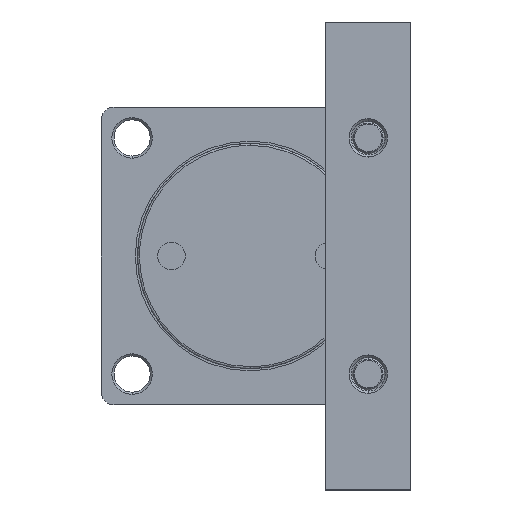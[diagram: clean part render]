
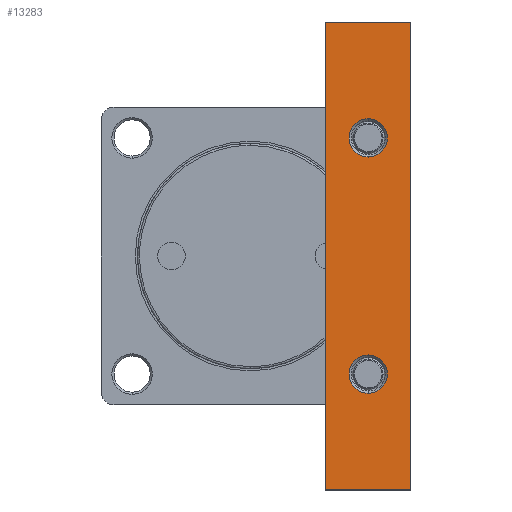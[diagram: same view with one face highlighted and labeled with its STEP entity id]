
A CAD part, left-side view. The second image highlights one B-rep face of the part: STEP entity #13283.
In plain terms, the highlighted planar face has unit normal (1, 0, 0).
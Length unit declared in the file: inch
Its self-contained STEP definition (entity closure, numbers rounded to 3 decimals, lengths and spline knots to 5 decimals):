
#278 = FACE_OUTER_BOUND ( 'NONE', #11559, .T. ) ;
#330 = FACE_BOUND ( 'NONE', #11462, .T. ) ;
#429 = FACE_BOUND ( 'NONE', #10726, .T. ) ;
#587 = EDGE_CURVE ( 'NONE', #9661, #13272, #10813, .T. ) ;
#703 = DIRECTION ( 'NONE',  ( 0., -1., 0. ) ) ;
#925 = CIRCLE ( 'NONE', #10037, 0.35433 ) ;
#1519 = VERTEX_POINT ( 'NONE', #6085 ) ;
#1577 = VECTOR ( 'NONE', #3057, 39.37008 ) ;
#1736 = LINE ( 'NONE', #10675, #9034 ) ;
#1895 = LINE ( 'NONE', #10315, #12450 ) ;
#2360 = ORIENTED_EDGE ( 'NONE', *, *, #6952, .T. ) ;
#2753 = AXIS2_PLACEMENT_3D ( 'NONE', #9407, #7919, #14099 ) ;
#2815 = AXIS2_PLACEMENT_3D ( 'NONE', #3632, #3628, #3608 ) ;
#2924 = VERTEX_POINT ( 'NONE', #12905 ) ;
#3031 = CARTESIAN_POINT ( 'NONE',  ( -2.61811, -1.39764, 4.33071 ) ) ;
#3057 = DIRECTION ( 'NONE',  ( 0., 0., 1. ) ) ;
#3608 = DIRECTION ( 'NONE',  ( 0., 0., 1. ) ) ;
#3628 = DIRECTION ( 'NONE',  ( -1., 0., 0. ) ) ;
#3632 = CARTESIAN_POINT ( 'NONE',  ( -2.61811, -2.18504, 2.18504 ) ) ;
#4133 = EDGE_CURVE ( 'NONE', #1519, #2924, #8435, .T. ) ;
#4329 = EDGE_CURVE ( 'NONE', #9180, #9606, #9772, .T. ) ;
#4733 = CIRCLE ( 'NONE', #7705, 0.35433 ) ;
#4850 = EDGE_CURVE ( 'NONE', #9606, #12895, #9129, .T. ) ;
#5088 = EDGE_CURVE ( 'NONE', #12895, #13873, #1736, .T. ) ;
#5189 = EDGE_CURVE ( 'NONE', #13873, #9180, #1895, .T. ) ;
#5261 = CARTESIAN_POINT ( 'NONE',  ( -2.61811, -2.18504, -2.53937 ) ) ;
#6085 = CARTESIAN_POINT ( 'NONE',  ( -2.61811, -2.18504, 2.53937 ) ) ;
#6952 = EDGE_CURVE ( 'NONE', #2924, #1519, #925, .T. ) ;
#7045 = VECTOR ( 'NONE', #703, 39.37008 ) ;
#7282 = ORIENTED_EDGE ( 'NONE', *, *, #4133, .T. ) ;
#7350 = CARTESIAN_POINT ( 'NONE',  ( -2.61811, -2.97244, 4.33071 ) ) ;
#7705 = AXIS2_PLACEMENT_3D ( 'NONE', #12295, #12279, #12234 ) ;
#7720 = DIRECTION ( 'NONE',  ( 0., 0., 1. ) ) ;
#7734 = DIRECTION ( 'NONE',  ( -1., 0., 0. ) ) ;
#7736 = CARTESIAN_POINT ( 'NONE',  ( -2.61811, -2.18504, 2.18504 ) ) ;
#7919 = DIRECTION ( 'NONE',  ( 1., 0., 0. ) ) ;
#8081 = CARTESIAN_POINT ( 'NONE',  ( -2.61811, -2.18504, -2.18504 ) ) ;
#8099 = DIRECTION ( 'NONE',  ( -1., 0., 0. ) ) ;
#8116 = DIRECTION ( 'NONE',  ( 0., 0., 1. ) ) ;
#8154 = CARTESIAN_POINT ( 'NONE',  ( -2.61811, -2.18504, -1.83071 ) ) ;
#8234 = CARTESIAN_POINT ( 'NONE',  ( -2.61811, -1.39764, 4.33071 ) ) ;
#8391 = PLANE ( 'NONE',  #2753 ) ;
#8434 = CARTESIAN_POINT ( 'NONE',  ( -2.61811, -2.97244, -4.33071 ) ) ;
#8435 = CIRCLE ( 'NONE', #2815, 0.35433 ) ;
#8864 = EDGE_CURVE ( 'NONE', #13272, #9661, #4733, .T. ) ;
#9034 = VECTOR ( 'NONE', #10712, 39.37008 ) ;
#9129 = LINE ( 'NONE', #10593, #7045 ) ;
#9180 = VERTEX_POINT ( 'NONE', #10597 ) ;
#9407 = CARTESIAN_POINT ( 'NONE',  ( -2.61811, -2.97244, 4.33071 ) ) ;
#9482 = ORIENTED_EDGE ( 'NONE', *, *, #8864, .T. ) ;
#9606 = VERTEX_POINT ( 'NONE', #8234 ) ;
#9661 = VERTEX_POINT ( 'NONE', #8154 ) ;
#9772 = LINE ( 'NONE', #3031, #1577 ) ;
#10037 = AXIS2_PLACEMENT_3D ( 'NONE', #7736, #7734, #7720 ) ;
#10078 = AXIS2_PLACEMENT_3D ( 'NONE', #8081, #8099, #8116 ) ;
#10133 = DIRECTION ( 'NONE',  ( 0., 1., 0. ) ) ;
#10315 = CARTESIAN_POINT ( 'NONE',  ( -2.61811, -2.97244, -4.33071 ) ) ;
#10593 = CARTESIAN_POINT ( 'NONE',  ( -2.61811, -2.97244, 4.33071 ) ) ;
#10597 = CARTESIAN_POINT ( 'NONE',  ( -2.61811, -1.39764, -4.33071 ) ) ;
#10675 = CARTESIAN_POINT ( 'NONE',  ( -2.61811, -2.97244, 4.33071 ) ) ;
#10712 = DIRECTION ( 'NONE',  ( 0., 0., -1. ) ) ;
#10726 = EDGE_LOOP ( 'NONE', ( #7282, #2360 ) ) ;
#10813 = CIRCLE ( 'NONE', #10078, 0.35433 ) ;
#11315 = ORIENTED_EDGE ( 'NONE', *, *, #4850, .T. ) ;
#11318 = ORIENTED_EDGE ( 'NONE', *, *, #4329, .T. ) ;
#11462 = EDGE_LOOP ( 'NONE', ( #12446, #9482 ) ) ;
#11530 = ORIENTED_EDGE ( 'NONE', *, *, #5088, .T. ) ;
#11559 = EDGE_LOOP ( 'NONE', ( #11318, #11315, #11530, #13663 ) ) ;
#12234 = DIRECTION ( 'NONE',  ( 0., 0., 1. ) ) ;
#12279 = DIRECTION ( 'NONE',  ( -1., 0., 0. ) ) ;
#12295 = CARTESIAN_POINT ( 'NONE',  ( -2.61811, -2.18504, -2.18504 ) ) ;
#12446 = ORIENTED_EDGE ( 'NONE', *, *, #587, .T. ) ;
#12450 = VECTOR ( 'NONE', #10133, 39.37008 ) ;
#12895 = VERTEX_POINT ( 'NONE', #7350 ) ;
#12905 = CARTESIAN_POINT ( 'NONE',  ( -2.61811, -2.18504, 1.83071 ) ) ;
#13272 = VERTEX_POINT ( 'NONE', #5261 ) ;
#13283 = ADVANCED_FACE ( 'NONE', ( #278, #429, #330 ), #8391, .T. ) ;
#13663 = ORIENTED_EDGE ( 'NONE', *, *, #5189, .T. ) ;
#13873 = VERTEX_POINT ( 'NONE', #8434 ) ;
#14099 = DIRECTION ( 'NONE',  ( 0., 0., -1. ) ) ;
